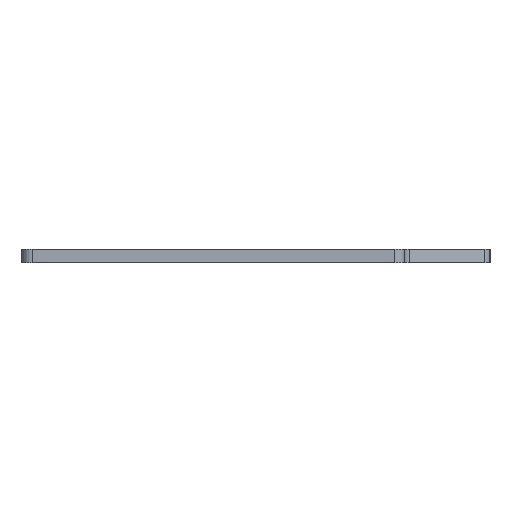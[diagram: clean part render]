
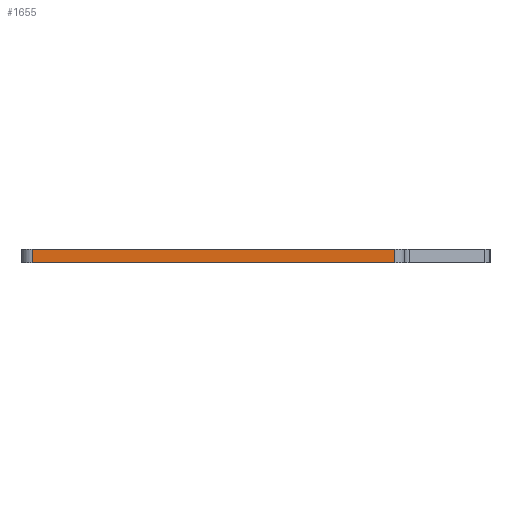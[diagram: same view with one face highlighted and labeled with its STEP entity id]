
A CAD part, left-side view. The second image highlights one B-rep face of the part: STEP entity #1655.
In plain terms, the highlighted planar face has unit normal (-1, 0, 0).
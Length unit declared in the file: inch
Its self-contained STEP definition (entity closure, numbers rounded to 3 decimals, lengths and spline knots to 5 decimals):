
#137=DIRECTION('',(0.,-1.,0.));
#138=VECTOR('',#137,4.23378);
#139=CARTESIAN_POINT('',(-6.4375,2.61689,0.));
#140=LINE('',#139,#138);
#311=DIRECTION('',(0.,0.,1.));
#312=VECTOR('',#311,0.15748);
#313=CARTESIAN_POINT('',(-6.4375,2.61689,-0.15748));
#314=LINE('',#313,#312);
#315=DIRECTION('',(0.,0.,1.));
#316=VECTOR('',#315,0.15748);
#317=CARTESIAN_POINT('',(-6.4375,-1.61689,-0.15748));
#318=LINE('',#317,#316);
#556=DIRECTION('',(0.,-1.,0.));
#557=VECTOR('',#556,4.23378);
#558=CARTESIAN_POINT('',(-6.4375,2.61689,-0.15748));
#559=LINE('',#558,#557);
#1146=CARTESIAN_POINT('',(-6.4375,2.61689,0.));
#1148=VERTEX_POINT('',#1146);
#1149=CARTESIAN_POINT('',(-6.4375,2.61689,-0.15748));
#1150=VERTEX_POINT('',#1149);
#1401=CARTESIAN_POINT('',(-6.4375,-1.61689,0.));
#1403=VERTEX_POINT('',#1401);
#1407=CARTESIAN_POINT('',(-6.4375,-1.61689,-0.15748));
#1408=VERTEX_POINT('',#1407);
#1642=CARTESIAN_POINT('',(-6.4375,0.,-0.07874));
#1643=DIRECTION('',(-1.,0.,0.));
#1644=DIRECTION('',(0.,-1.,0.));
#1645=AXIS2_PLACEMENT_3D('',#1642,#1643,#1644);
#1646=PLANE('',#1645);
#1647=ORIENTED_EDGE('',*,*,#1633,.T.);
#1648=ORIENTED_EDGE('',*,*,#1524,.T.);
#1650=ORIENTED_EDGE('',*,*,#1649,.F.);
#1652=ORIENTED_EDGE('',*,*,#1651,.F.);
#1653=EDGE_LOOP('',(#1647,#1648,#1650,#1652));
#1654=FACE_OUTER_BOUND('',#1653,.F.);
#1655=ADVANCED_FACE('',(#1654),#1646,.T.);
#1524=EDGE_CURVE('',#1148,#1403,#140,.T.);
#1633=EDGE_CURVE('',#1150,#1148,#314,.T.);
#1649=EDGE_CURVE('',#1408,#1403,#318,.T.);
#1651=EDGE_CURVE('',#1150,#1408,#559,.T.);
